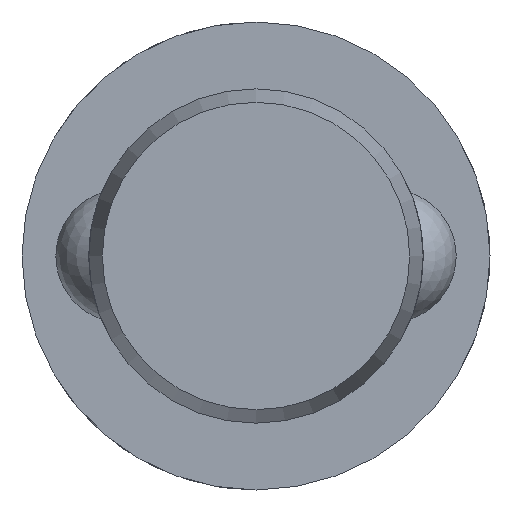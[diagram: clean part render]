
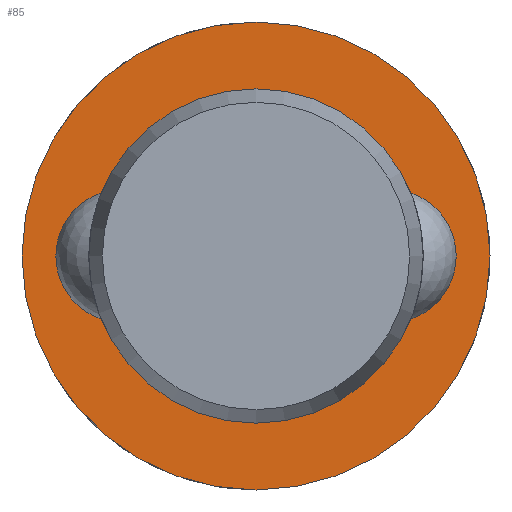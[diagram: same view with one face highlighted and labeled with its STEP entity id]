
A CAD part, left-side view. The second image highlights one B-rep face of the part: STEP entity #85.
In plain terms, the highlighted planar face has unit normal (-1, 0, 0).
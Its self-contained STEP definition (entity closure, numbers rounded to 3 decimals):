
#85 = ADVANCED_FACE( '', ( #130, #131 ), #132, .F. );
#130 = FACE_OUTER_BOUND( '', #200, .T. );
#131 = FACE_BOUND( '', #201, .T. );
#132 = PLANE( '', #202 );
#200 = EDGE_LOOP( '', ( #315 ) );
#201 = EDGE_LOOP( '', ( #316 ) );
#202 = AXIS2_PLACEMENT_3D( '', #317, #318, #319 );
#315 = ORIENTED_EDGE( '', *, *, #458, .F. );
#316 = ORIENTED_EDGE( '', *, *, #455, .T. );
#317 = CARTESIAN_POINT( '', ( 89.6, 5., 0. ) );
#318 = DIRECTION( '', ( 1., 0., 0. ) );
#319 = DIRECTION( '', ( 0., 0., -1. ) );
#455 = EDGE_CURVE( '', #528, #528, #529, .T. );
#458 = EDGE_CURVE( '', #534, #534, #535, .T. );
#528 = VERTEX_POINT( '', #732 );
#529 = CIRCLE( '', #733, 5. );
#534 = VERTEX_POINT( '', #844 );
#535 = CIRCLE( '', #845, 7. );
#732 = CARTESIAN_POINT( '', ( 89.6, 0., -5. ) );
#733 = AXIS2_PLACEMENT_3D( '', #922, #923, #924 );
#844 = CARTESIAN_POINT( '', ( 89.6, 0., -7. ) );
#845 = AXIS2_PLACEMENT_3D( '', #925, #926, #927 );
#922 = CARTESIAN_POINT( '', ( 89.6, 0., 0. ) );
#923 = DIRECTION( '', ( 1., 0., 0. ) );
#924 = DIRECTION( '', ( 0., 0., -1. ) );
#925 = CARTESIAN_POINT( '', ( 89.6, 0., 0. ) );
#926 = DIRECTION( '', ( 1., 0., 0. ) );
#927 = DIRECTION( '', ( 0., 0., -1. ) );
